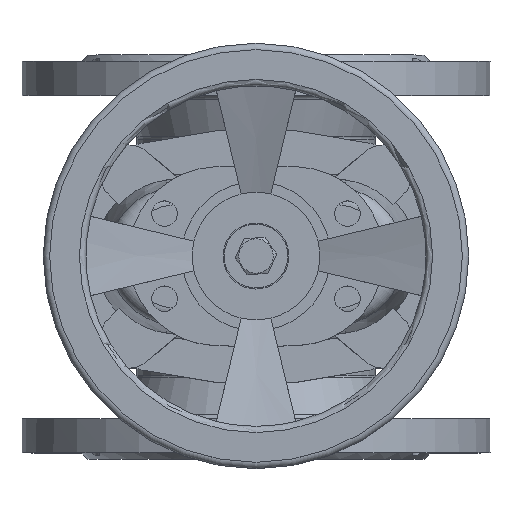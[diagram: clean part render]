
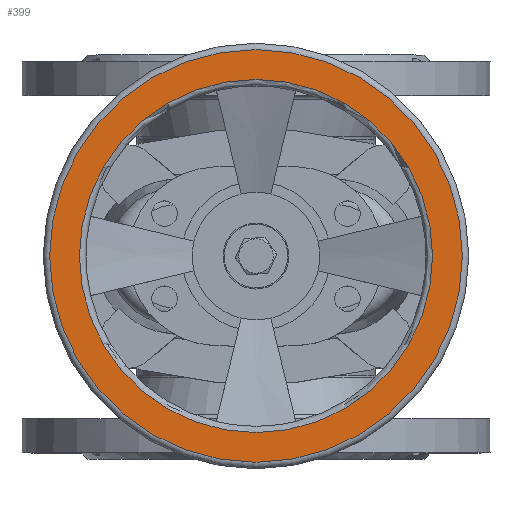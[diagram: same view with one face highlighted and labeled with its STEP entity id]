
A CAD part, top view. The second image highlights one B-rep face of the part: STEP entity #399.
In plain terms, the highlighted planar face has unit normal (0, 0, 1).
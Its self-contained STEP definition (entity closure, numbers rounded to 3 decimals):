
#399=ADVANCED_FACE('',(#2396,#2398),#2400,.T.);
#2396=FACE_BOUND('',#2397,.T.);
#2397=EDGE_LOOP('',(#4679));
#2398=FACE_BOUND('',#2399,.T.);
#2399=EDGE_LOOP('',(#4680));
#2400=PLANE('',#2401);
#2401=AXIS2_PLACEMENT_3D('',#2402,#2403,#2404);
#2402=CARTESIAN_POINT('',(0.,0.,325.));
#2403=DIRECTION('',(0.,0.,1.));
#2404=DIRECTION('',(0.,-1.,0.));
#4679=ORIENTED_EDGE('',*,*,#5809,.T.);
#4680=ORIENTED_EDGE('',*,*,#5779,.F.);
#5779=EDGE_CURVE('',#6430,#6430,#6431,.T.);
#5809=EDGE_CURVE('',#6475,#6475,#6476,.T.);
#6430=VERTEX_POINT('',#7875);
#6431=CIRCLE('',#7876,83.);
#6475=VERTEX_POINT('',#7992);
#6476=CIRCLE('',#7993,97.);
#7875=CARTESIAN_POINT('',(0.,-83.,325.));
#7876=AXIS2_PLACEMENT_3D('',#7877,#7878,#7879);
#7877=CARTESIAN_POINT('',(0.,0.,325.));
#7878=DIRECTION('',(0.,0.,1.));
#7879=DIRECTION('',(0.,-1.,0.));
#7992=CARTESIAN_POINT('',(0.,-97.,325.));
#7993=AXIS2_PLACEMENT_3D('',#7994,#7995,#7996);
#7994=CARTESIAN_POINT('',(0.,0.,325.));
#7995=DIRECTION('',(0.,0.,1.));
#7996=DIRECTION('',(0.,-1.,0.));
